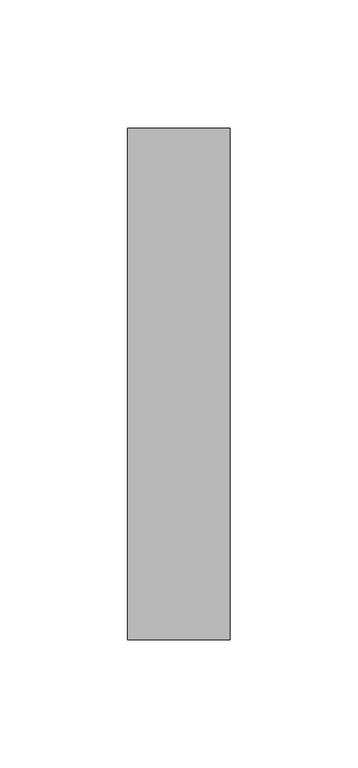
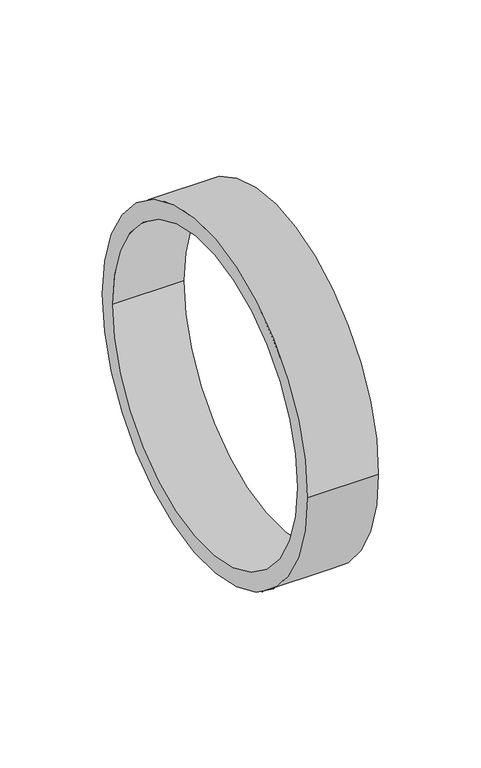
"""IFC4 building model written with IfcOpenShell, lengths in millimetres: duct fitting geometry, HEATPEX - ARIA ADURO - Adapter króćca do rekuperatora : 180/200."""

from ifc_helpers import new_model, si_unit, point, frame, origin, origin_2d, place, context, project, spatial, circle_curve, trimmed, segment, composite_curve, outline, extrude, source, transform, mapped, element, save


def duct_fitting_890f7c86(model_context):
    return source(origin(), model_context, "Body", "SweptSolid", [
        extrude(outline(composite_curve([segment(trimmed(circle_curve(origin_2d(), 100.0), [point((-100.0, 0.0))], [point((100.0, 0.0))], False, "CARTESIAN"), True, "CONTINUOUS"), segment(trimmed(circle_curve(origin_2d(), 100.0), [point((100.0, 0.0))], [point((-100.0, 0.0))], False, "CARTESIAN"), True, "CONTINUOUS")], self_intersect=False), holes=[composite_curve([segment(trimmed(circle_curve(origin_2d(), 90.0), [point((-90.0, 0.0))], [point((90.0, 0.0))], True, "CARTESIAN"), True, "CONTINUOUS"), segment(trimmed(circle_curve(origin_2d(), 90.0), [point((90.0, 0.0))], [point((-90.0, 0.0))], True, "CARTESIAN"), True, "CONTINUOUS")], self_intersect=False)]), frame((-20.0, 0.0, 0.0), z_axis=(1.0, 0.0, 0.0), x_axis=(0.0, 1.0, 0.0)), (0.0, 0.0, 1.0), 40.0),
    ])


if __name__ == "__main__":
    model = new_model("IFC4")
    model_context = context("Model", 3, world=origin())
    ifc_project = project(units=[si_unit("LENGTHUNIT", "METRE", prefix="MILLI")], contexts=[model_context])
    site = spatial("IfcSite", under=ifc_project)
    building = spatial("IfcBuilding", under=site)
    placement = place(None, origin())
    duct_fitting_shape = duct_fitting_890f7c86(model_context)
    element("IfcDuctFitting", 1, ObjectType="HEATPEX - ARIA ADURO - Adapter króćca do rekuperatora : 180/200", at=placement, inside=building, context=model_context, shape_type="MappedRepresentation", body=[
        mapped(duct_fitting_shape, transform((0.0, 0.0, 0.0), x_axis=(1.0, 0.0, 0.0), y_axis=(0.0, 1.0, 0.0), z_axis=(0.0, 0.0, 1.0))),
    ])
    save(model, "model.ifc")
